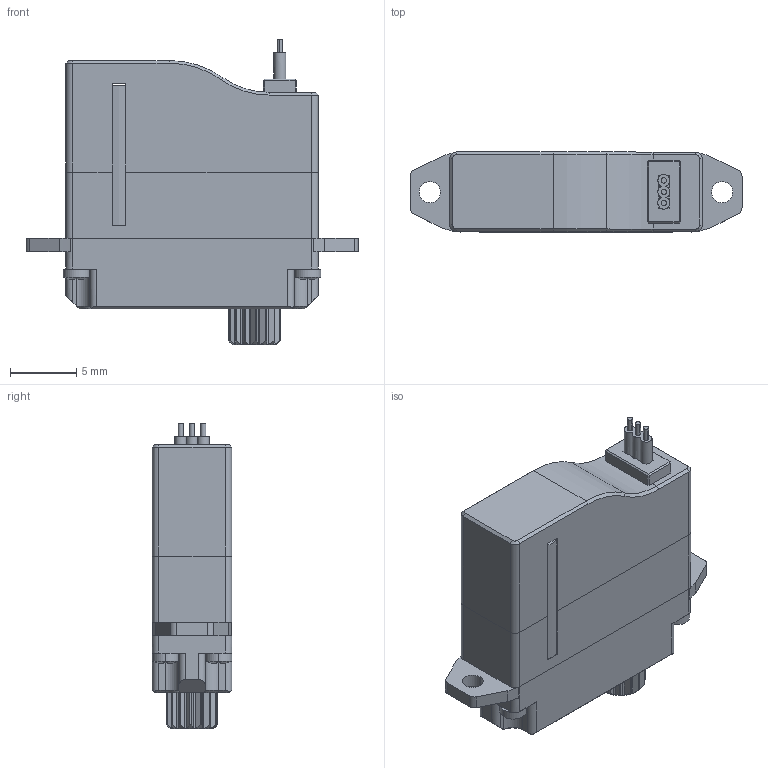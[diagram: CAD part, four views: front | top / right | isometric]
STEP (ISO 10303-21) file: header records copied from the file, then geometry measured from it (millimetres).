
FILE_DESCRIPTION (( 'STEP AP214' ), '1' );
FILE_NAME ('HV&LV 06_DM_20220705.STEP', '2022-07-05T07:26:40', ( '微软用户' ), ( '微软中国' ), 'SwSTEP 2.0', 'SolidWorks 2016', '' );
FILE_SCHEMA (( 'AUTOMOTIVE_DESIGN' ));
Length unit declared in the file: millimetre
Products named in the file (1): HV&LV 06_DM_20220705
Bounding box: 25 x 6 x 23 mm (x, y, z)
Surface area: 1562.3 mm2 (no closed solid volume)
Topology: 0 solids, 10 shells, 321 faces, 1011 edges, 686 vertices
Faces by surface type: plane 170, cylinder 113, cone 30, sphere 8
Entity records: 14888 total; most frequent: CARTESIAN_POINT 2390, DIRECTION 1921, ORIENTED_EDGE 1794, EDGE_CURVE 1011, AXIS2_PLACEMENT_3D 701, VERTEX_POINT 686, LINE 519, VECTOR 519
